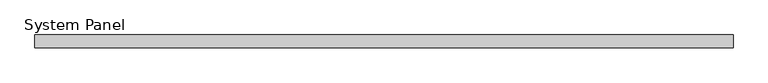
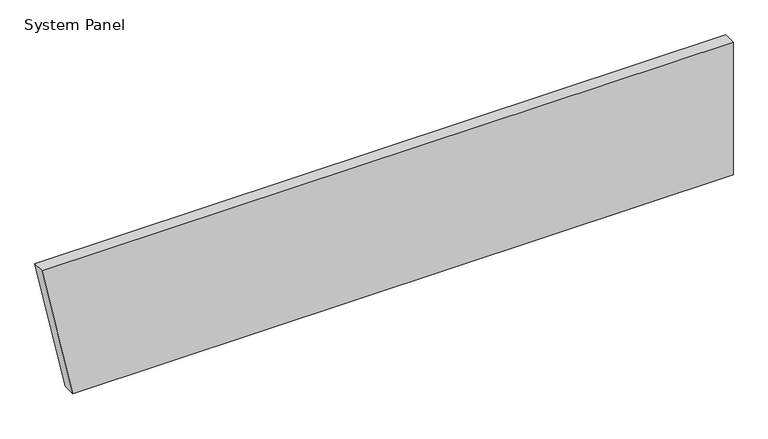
"""IFC4 building model written with IfcOpenShell, lengths in millimetres: plate geometry, System Panel : Inspire 100mm Horizontal - Plain RHEA-PIR."""

from ifc_helpers import new_model, si_unit, frame, origin, place, context, project, spatial, polyline, outline, extrude, source, transform, mapped, element, save


def system_panel_d5a0d648(model_context):
    return source(origin(), model_context, "Body", "SweptSolid", [
        extrude(outline(polyline([(0.0, -2470.4338217), (0.0, 2709.5661783), (1100.0, 2709.5661783), (1100.0, -2709.5661783), (0.0, -2470.4338217)])), frame((0.0, -100.0, 0.0), z_axis=(0.0, 1.0, 0.0), x_axis=(0.0, 0.0, 1.0)), (0.0, 0.0, 1.0), 100.0),
    ])


if __name__ == "__main__":
    model = new_model("IFC4")
    model_context = context("Model", 3, world=origin())
    ifc_project = project(units=[si_unit("LENGTHUNIT", "METRE", prefix="MILLI")], contexts=[model_context])
    site = spatial("IfcSite", under=ifc_project)
    building = spatial("IfcBuilding", under=site)
    placement = place(None, origin())
    system_panel_shape = system_panel_d5a0d648(model_context)
    element("IfcPlate", 1, ObjectType="System Panel : Inspire 100mm Horizontal - Plain RHEA-PIR", at=placement, inside=building, context=model_context, shape_type="MappedRepresentation", body=[
        mapped(system_panel_shape, transform((0.0, 0.0, 0.0), x_axis=(1.0, 0.0, 0.0), y_axis=(0.0, 1.0, 0.0), z_axis=(0.0, 0.0, 1.0))),
    ])
    save(model, "model.ifc")
